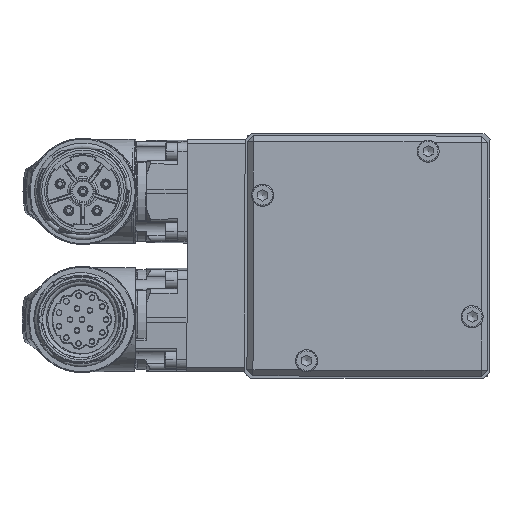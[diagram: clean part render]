
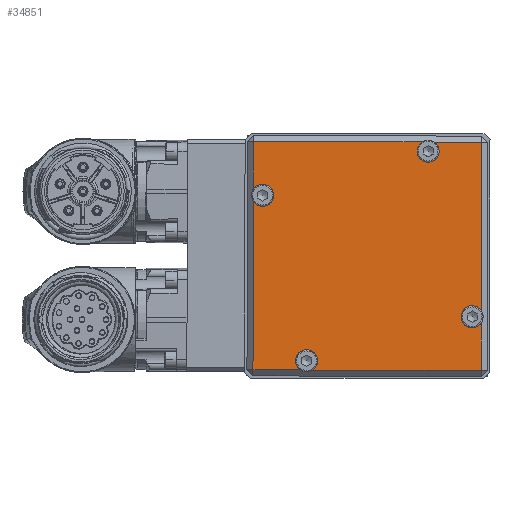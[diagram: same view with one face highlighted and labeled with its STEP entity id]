
A CAD part, left-side view. The second image highlights one B-rep face of the part: STEP entity #34851.
In plain terms, the highlighted planar face has unit normal (-1, 0, 0).
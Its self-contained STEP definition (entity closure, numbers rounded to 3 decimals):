
#3148=CIRCLE('',#37151,2.75);
#3149=CIRCLE('',#37153,2.75);
#3150=CIRCLE('',#37154,2.75);
#3151=CIRCLE('',#37155,2.75);
#5484=FACE_OUTER_BOUND('',#7684,.T.);
#7684=EDGE_LOOP('',(#22709,#22710,#22711,#22712,#22713,#22714,#22715,#22716,
#22717,#22718,#22719,#22720));
#10195=LINE('',#50976,#11920);
#10197=LINE('',#50978,#11922);
#10210=LINE('',#51013,#11935);
#10212=LINE('',#51015,#11937);
#10213=LINE('',#51024,#11938);
#10215=LINE('',#51026,#11940);
#10216=LINE('',#51035,#11941);
#10218=LINE('',#51037,#11943);
#11920=VECTOR('',#41687,11.872);
#11922=VECTOR('',#41689,42.122);
#11935=VECTOR('',#41718,11.872);
#11937=VECTOR('',#41720,42.122);
#11938=VECTOR('',#41729,11.872);
#11940=VECTOR('',#41731,42.122);
#11941=VECTOR('',#41740,11.872);
#11943=VECTOR('',#41742,42.122);
#13562=VERTEX_POINT('',#50944);
#13567=VERTEX_POINT('',#50957);
#13571=VERTEX_POINT('',#50969);
#13574=VERTEX_POINT('',#50974);
#13576=VERTEX_POINT('',#50981);
#13581=VERTEX_POINT('',#50994);
#13585=VERTEX_POINT('',#51006);
#13588=VERTEX_POINT('',#51011);
#13589=VERTEX_POINT('',#51017);
#13592=VERTEX_POINT('',#51022);
#13593=VERTEX_POINT('',#51028);
#13596=VERTEX_POINT('',#51033);
#16994=EDGE_CURVE('',#13574,#13567,#10195,.T.);
#16996=EDGE_CURVE('',#13562,#13571,#10197,.T.);
#17012=EDGE_CURVE('',#13588,#13581,#10210,.T.);
#17014=EDGE_CURVE('',#13567,#13585,#10212,.T.);
#17018=EDGE_CURVE('',#13592,#13576,#10213,.T.);
#17020=EDGE_CURVE('',#13581,#13589,#10215,.T.);
#17024=EDGE_CURVE('',#13596,#13562,#10216,.T.);
#17026=EDGE_CURVE('',#13576,#13593,#10218,.T.);
#17030=EDGE_CURVE('',#13574,#13571,#3148,.T.);
#17031=EDGE_CURVE('',#13596,#13593,#3149,.T.);
#17032=EDGE_CURVE('',#13592,#13589,#3150,.T.);
#17033=EDGE_CURVE('',#13588,#13585,#3151,.T.);
#22709=ORIENTED_EDGE('',*,*,#17014,.F.);
#22710=ORIENTED_EDGE('',*,*,#16994,.F.);
#22711=ORIENTED_EDGE('',*,*,#17030,.T.);
#22712=ORIENTED_EDGE('',*,*,#16996,.F.);
#22713=ORIENTED_EDGE('',*,*,#17024,.F.);
#22714=ORIENTED_EDGE('',*,*,#17031,.T.);
#22715=ORIENTED_EDGE('',*,*,#17026,.F.);
#22716=ORIENTED_EDGE('',*,*,#17018,.F.);
#22717=ORIENTED_EDGE('',*,*,#17032,.T.);
#22718=ORIENTED_EDGE('',*,*,#17020,.F.);
#22719=ORIENTED_EDGE('',*,*,#17012,.F.);
#22720=ORIENTED_EDGE('',*,*,#17033,.T.);
#32089=PLANE('',#37152);
#34851=ADVANCED_FACE('',(#5484),#32089,.T.);
#37151=AXIS2_PLACEMENT_3D('',#51044,#41753,#41754);
#37152=AXIS2_PLACEMENT_3D('',#51045,#41755,#41756);
#37153=AXIS2_PLACEMENT_3D('',#51046,#41757,#41758);
#37154=AXIS2_PLACEMENT_3D('',#51047,#41759,#41760);
#37155=AXIS2_PLACEMENT_3D('',#51048,#41761,#41762);
#41687=DIRECTION('',(0.,1.,0.002));
#41689=DIRECTION('',(0.,1.,0.002));
#41718=DIRECTION('',(0.,-0.002,1.));
#41720=DIRECTION('',(0.,-0.002,1.));
#41729=DIRECTION('',(0.,-1.,-0.002));
#41731=DIRECTION('',(0.,-1.,-0.002));
#41740=DIRECTION('',(0.,0.002,-1.));
#41742=DIRECTION('',(0.,0.002,-1.));
#41753=DIRECTION('center_axis',(1.,0.,0.));
#41754=DIRECTION('ref_axis',(0.,1.,0.002));
#41755=DIRECTION('center_axis',(-1.,0.,0.));
#41756=DIRECTION('ref_axis',(0.,-0.002,1.));
#41757=DIRECTION('center_axis',(1.,0.,0.));
#41758=DIRECTION('ref_axis',(0.,0.002,
-1.));
#41759=DIRECTION('center_axis',(1.,0.,0.));
#41760=DIRECTION('ref_axis',(0.,-1.,-0.002));
#41761=DIRECTION('center_axis',(1.,0.,0.));
#41762=DIRECTION('ref_axis',(0.,-0.002,
1.));
#50944=CARTESIAN_POINT('',(-191.5,-28.447,-28.553));
#50957=CARTESIAN_POINT('',(-191.5,28.553,-28.447));
#50969=CARTESIAN_POINT('',(-191.5,13.675,-28.475));
#50974=CARTESIAN_POINT('',(-191.5,16.681,-28.469));
#50976=CARTESIAN_POINT('',(-191.5,-14.947,-28.528));
#50978=CARTESIAN_POINT('',(-191.5,-14.947,-28.528));
#50981=CARTESIAN_POINT('',(-191.5,-28.553,28.447));
#50994=CARTESIAN_POINT('',(-191.5,28.447,28.553));
#51006=CARTESIAN_POINT('',(-191.5,28.475,13.675));
#51011=CARTESIAN_POINT('',(-191.5,28.469,16.681));
#51013=CARTESIAN_POINT('',(-191.5,28.528,-14.947));
#51015=CARTESIAN_POINT('',(-191.5,28.528,-14.947));
#51017=CARTESIAN_POINT('',(-191.5,-13.675,28.475));
#51022=CARTESIAN_POINT('',(-191.5,-16.681,28.469));
#51024=CARTESIAN_POINT('',(-191.5,14.947,28.528));
#51026=CARTESIAN_POINT('',(-191.5,14.947,28.528));
#51028=CARTESIAN_POINT('',(-191.5,-28.475,-13.675));
#51033=CARTESIAN_POINT('',(-191.5,-28.469,-16.681));
#51035=CARTESIAN_POINT('',(-191.5,-28.528,14.947));
#51037=CARTESIAN_POINT('',(-191.5,-28.528,14.947));
#51044=CARTESIAN_POINT('Origin',(-191.5,15.174,-26.169));
#51045=CARTESIAN_POINT('Origin',(-191.5,0.,0.));
#51046=CARTESIAN_POINT('Origin',(-191.5,-26.169,-15.174));
#51047=CARTESIAN_POINT('Origin',(-191.5,-15.174,26.169));
#51048=CARTESIAN_POINT('Origin',(-191.5,26.169,15.174));
